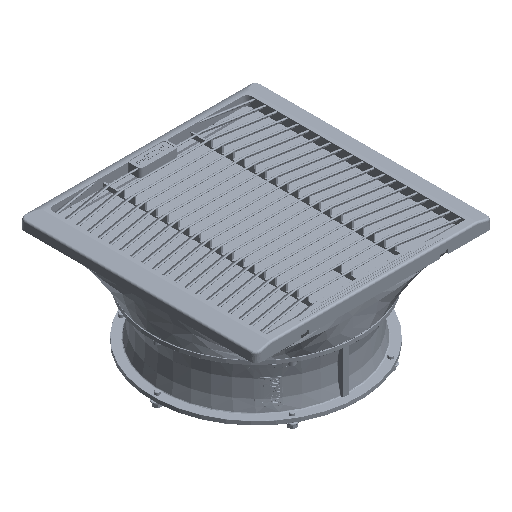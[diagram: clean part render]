
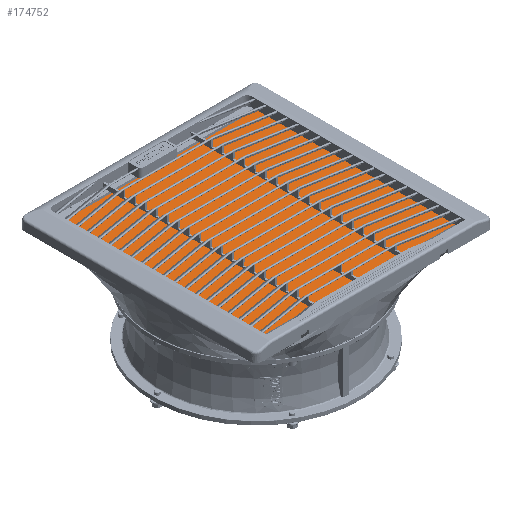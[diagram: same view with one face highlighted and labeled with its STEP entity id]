
A CAD part, isometric view. The second image highlights one B-rep face of the part: STEP entity #174752.
In plain terms, the highlighted planar face has unit normal (0, 0, 1).
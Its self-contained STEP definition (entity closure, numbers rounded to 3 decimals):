
#8082=PLANE('',#186690);
#17263=LINE('',#281875,#31640);
#17266=LINE('',#281881,#31643);
#17269=LINE('',#281887,#31646);
#17272=LINE('',#281891,#31649);
#31640=VECTOR('',#211246,10.);
#31643=VECTOR('',#211251,10.);
#31646=VECTOR('',#211256,10.);
#31649=VECTOR('',#211261,10.);
#52078=FACE_OUTER_BOUND('',#62914,.T.);
#62914=EDGE_LOOP('',(#140118,#140119,#140120,#140121));
#81391=VERTEX_POINT('',#281872);
#81392=VERTEX_POINT('',#281874);
#81394=VERTEX_POINT('',#281880);
#81396=VERTEX_POINT('',#281886);
#102237=EDGE_CURVE('',#81392,#81391,#17263,.T.);
#102240=EDGE_CURVE('',#81394,#81392,#17266,.T.);
#102243=EDGE_CURVE('',#81396,#81394,#17269,.T.);
#102246=EDGE_CURVE('',#81391,#81396,#17272,.T.);
#140118=ORIENTED_EDGE('',*,*,#102246,.T.);
#140119=ORIENTED_EDGE('',*,*,#102243,.T.);
#140120=ORIENTED_EDGE('',*,*,#102240,.T.);
#140121=ORIENTED_EDGE('',*,*,#102237,.T.);
#174752=ADVANCED_FACE('',(#52078),#8082,.T.);
#186690=AXIS2_PLACEMENT_3D('',#281893,#211264,#211265);
#211246=DIRECTION('',(0.,1.,0.));
#211251=DIRECTION('',(1.,0.,0.));
#211256=DIRECTION('',(0.,-1.,0.));
#211261=DIRECTION('',(-1.,0.,0.));
#211264=DIRECTION('center_axis',(0.,0.,1.));
#211265=DIRECTION('ref_axis',(1.,0.,0.));
#281872=CARTESIAN_POINT('',(106.85,106.85,12.));
#281874=CARTESIAN_POINT('',(106.85,-106.85,12.));
#281875=CARTESIAN_POINT('',(106.85,106.85,12.));
#281880=CARTESIAN_POINT('',(-106.85,-106.85,12.));
#281881=CARTESIAN_POINT('',(106.85,-106.85,12.));
#281886=CARTESIAN_POINT('',(-106.85,106.85,12.));
#281887=CARTESIAN_POINT('',(-106.85,-106.85,12.));
#281891=CARTESIAN_POINT('',(-106.85,106.85,12.));
#281893=CARTESIAN_POINT('Origin',(0.,0.,
12.));
